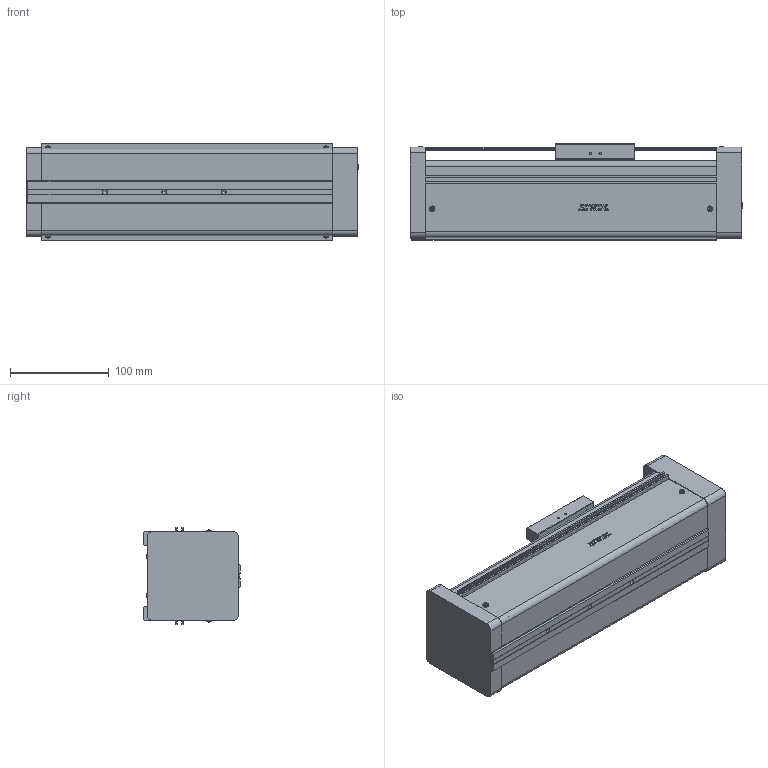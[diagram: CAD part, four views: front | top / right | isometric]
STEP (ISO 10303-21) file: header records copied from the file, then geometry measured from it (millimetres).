
FILE_DESCRIPTION(/* description */ (''),/* implementation_level */ '2;1');
FILE_NAME(/* name */ 'D:\混合母檔20191031\混和母檔\混和母檔\bin\Debug\Download\3D\KE905C-100AF0\KE905C-100AF0.stp',/* time_stamp */ '2019-11-04T14:15:27+08:00',/* author */ ('user'),/* organization */ (''),/* preprocessor_version */ 'ST-DEVELOPER v16.13',/* originating_system */ 'Autodesk Inventor 2018',/* authorisation */ '');
FILE_SCHEMA (('AUTOMOTIVE_DESIGN { 1 0 10303 214 3 1 1 }'));
Length unit declared in the file: millimetre
Products named in the file (3): KE905C-100AF0; KE90-F0-BP; KE90-SL
Assembly tree (2 placements, depth 2):
  KE905C-100AF0
    KE90-F0-BP
    KE90-SL
Bounding box: 336 x 98 x 98.4 mm (x, y, z)
Volume: 2337888.8 mm3; surface area: 254567.6 mm2
Topology: 3 solids, 22 shells, 867 faces, 2297 edges, 1517 vertices
Faces by surface type: plane 494, bspline 136, cone 113, cylinder 76, torus 40, sphere 8
Full cylindrical faces by diameter (mm): 2.5 x16, 3 x2, 3.3 x4, 4.2 x4, 4.5 x6, 4.917 x3, 5 x9, 8 x7, 46 x1, 50 x1
Entity records: 30408 total; most frequent: CARTESIAN_POINT 9538, ORIENTED_EDGE 4346, DIRECTION 3813, EDGE_CURVE 2173, VERTEX_POINT 1483, AXIS2_PLACEMENT_3D 1284, LINE 1245, VECTOR 1245
